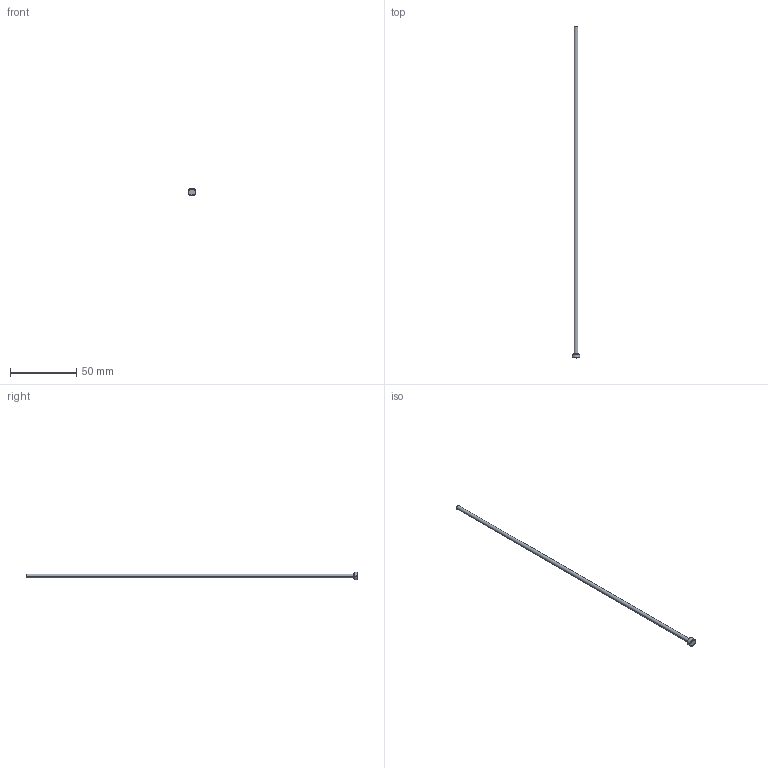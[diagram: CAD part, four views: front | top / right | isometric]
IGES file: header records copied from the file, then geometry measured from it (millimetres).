
Start section: SolidWorks IGES file using analytic representation for surfaces
Global section: file name: C:\Users\User\Downloads\Matripeça 31-08 tar\PB - PINO EXTRATOR TIPO _B_ (CATÁLOGO)\PB03,0\PB03,0250.IGS; native system: SolidWorks 2024; preprocessor: SolidWorks 2024; author: User; date: 260901.141649; units: millimetre
Bounding box: 6 x 250 x 6 mm (x, y, z)
Surface area: 2444.7 mm2 (no closed solid volume)
Topology: 0 solids, 0 shells, 409 faces, 3319 edges, 3319 vertices
Faces by surface type: bspline 395, revolution 14
